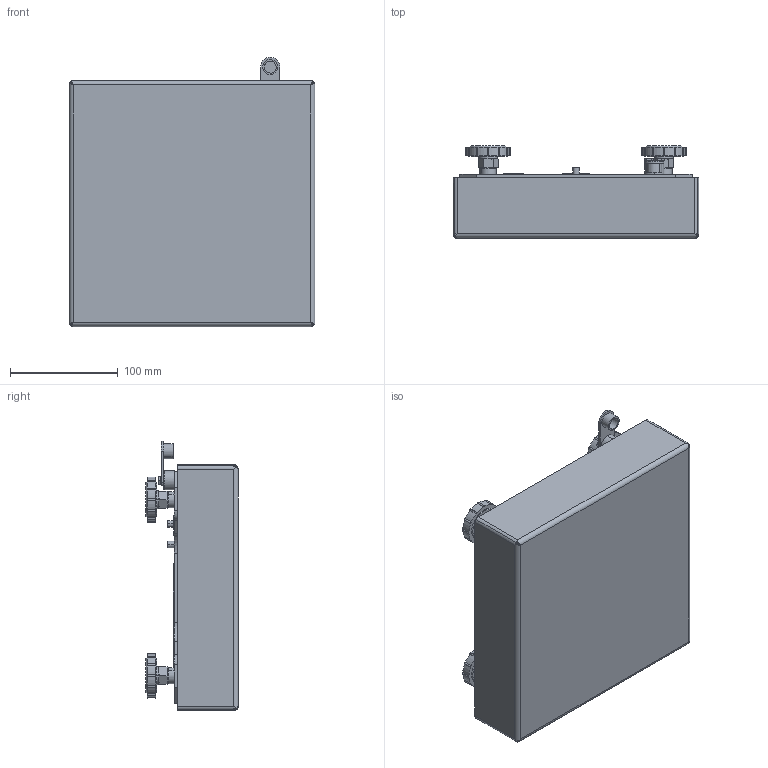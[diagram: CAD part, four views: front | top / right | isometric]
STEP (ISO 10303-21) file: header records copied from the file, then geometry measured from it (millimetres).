
FILE_DESCRIPTION((''),'2;1');
FILE_NAME('PLATFORM_PBA43X_QA_NO_HYGIENIC','2022-03-18T09:46:25',('fu-34'),(''),'CREO PARAMETRIC BY PTC INC, 2018260','CREO PARAMETRIC BY PTC INC, 2018260','');
FILE_SCHEMA(('CONFIG_CONTROL_DESIGN','SHAPE_APPEARANCE_LAYERS_GROUPS'));
Products named in the file (1): PLATFORM_PBA43X_QA_NO_HYGIENIC
Bounding box: 227.9 x 85.6 x 249.45 mm (x, y, z)
Volume: 618191.1 mm3; surface area: 444094.1 mm2
Topology: 5 solids, 74 shells, 2457 faces, 6152 edges, 3977 vertices
Faces by surface type: plane 1479, cylinder 638, cone 278, torus 40, bspline 18, sphere 4
Entity records: 90489 total; most frequent: CARTESIAN_POINT 15935, DIRECTION 12214, ORIENTED_EDGE 12041, EDGE_CURVE 6126, AXIS2_PLACEMENT_3D 4154, VERTEX_POINT 3977, VECTOR 3906, LINE 3906
